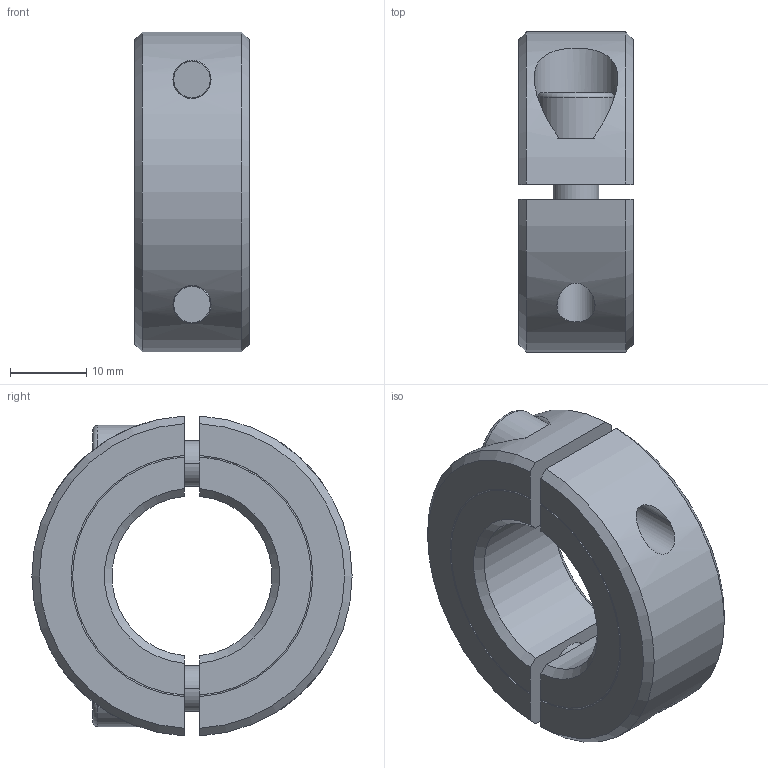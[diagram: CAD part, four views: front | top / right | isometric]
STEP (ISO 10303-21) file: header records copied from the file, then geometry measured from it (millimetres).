
FILE_DESCRIPTION((''),'2;1');
FILE_NAME('131-000-0021_ASM','2013-12-20T',('Brieden'),('brieden'),'PRO/ENGINEER BY PARAMETRIC TECHNOLOGY CORPORATION, 2005030','PRO/ENGINEER BY PARAMETRIC TECHNOLOGY CORPORATION, 2005030','');
FILE_SCHEMA(('AUTOMOTIVE_DESIGN_CC2 { 1 2 10303 214 -1 1 5 2 }'));
Length unit declared in the file: millimetre
Products named in the file (4): 131-000-0021-DB_PRT; 131-000-0021-TH_PRT; D912-M6X16_PRT; 131-000-0021_ASM
Assembly tree (4 placements, depth 2):
  131-000-0021_ASM
    131-000-0021-DB_PRT
    131-000-0021-TH_PRT
    D912-M6X16_PRT  x2
Bounding box: 15 x 42 x 41.95 mm (x, y, z)
Volume: 14125.7 mm3; surface area: 7429.8 mm2
Topology: 4 solids, 4 shells, 94 faces, 214 edges, 136 vertices
Faces by surface type: plane 34, cylinder 26, cone 20, torus 14
Entity records: 2302 total; most frequent: CARTESIAN_POINT 601, DIRECTION 348, ORIENTED_EDGE 312, EDGE_CURVE 156, AXIS2_PLACEMENT_3D 143, VERTEX_POINT 100, EDGE_LOOP 80, CIRCLE 68
